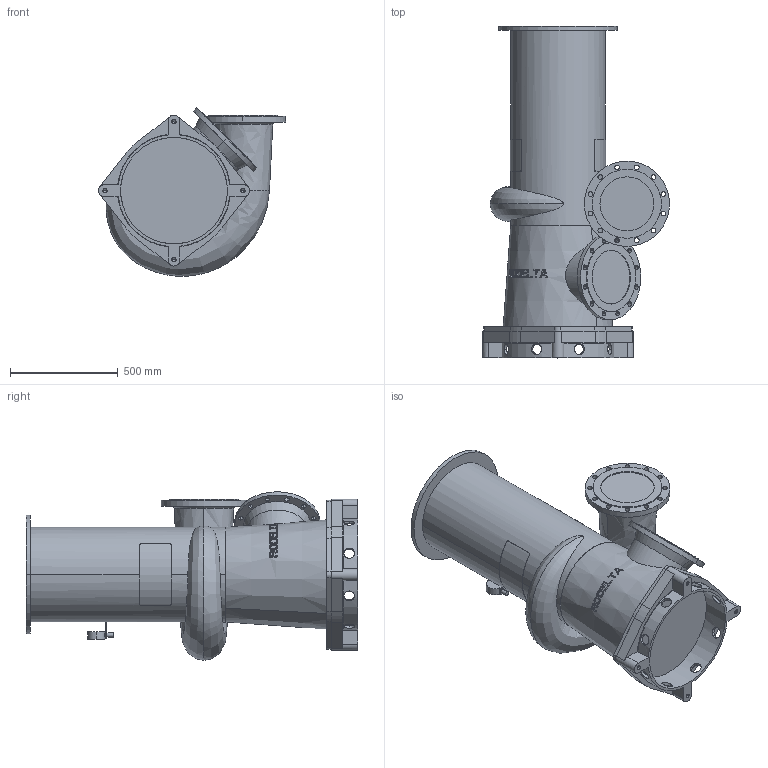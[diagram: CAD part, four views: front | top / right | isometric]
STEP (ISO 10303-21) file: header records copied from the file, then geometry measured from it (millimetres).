
FILE_DESCRIPTION((''),'2;1');
FILE_NAME('8510_ASM','2024-07-30T',('Lyritlocal'),(''),'PRO/ENGINEER BY PARAMETRIC TECHNOLOGY CORPORATION, 2016360','PRO/ENGINEER BY PARAMETRIC TECHNOLOGY CORPORATION, 2016360','');
FILE_SCHEMA(('CONFIG_CONTROL_DESIGN'));
Length unit declared in the file: millimetre
Products named in the file (3): 8510; 8510_VOET; 8510_ASM
Assembly tree (2 placements, depth 2):
  8510_ASM
    8510
    8510_VOET
Bounding box: 867.5 x 1539 x 781.34 mm (x, y, z)
Volume: 297748321.2 mm3; surface area: 4725053.7 mm2
Topology: 2 solids, 6 shells, 542 faces, 1460 edges, 967 vertices
Faces by surface type: plane 343, cylinder 155, cone 34, bspline 6, torus 4
Entity records: 19328 total; most frequent: CARTESIAN_POINT 6085, ORIENTED_EDGE 2888, DIRECTION 2477, EDGE_CURVE 1452, VERTEX_POINT 967, AXIS2_PLACEMENT_3D 961, EDGE_LOOP 659, VECTOR 555
